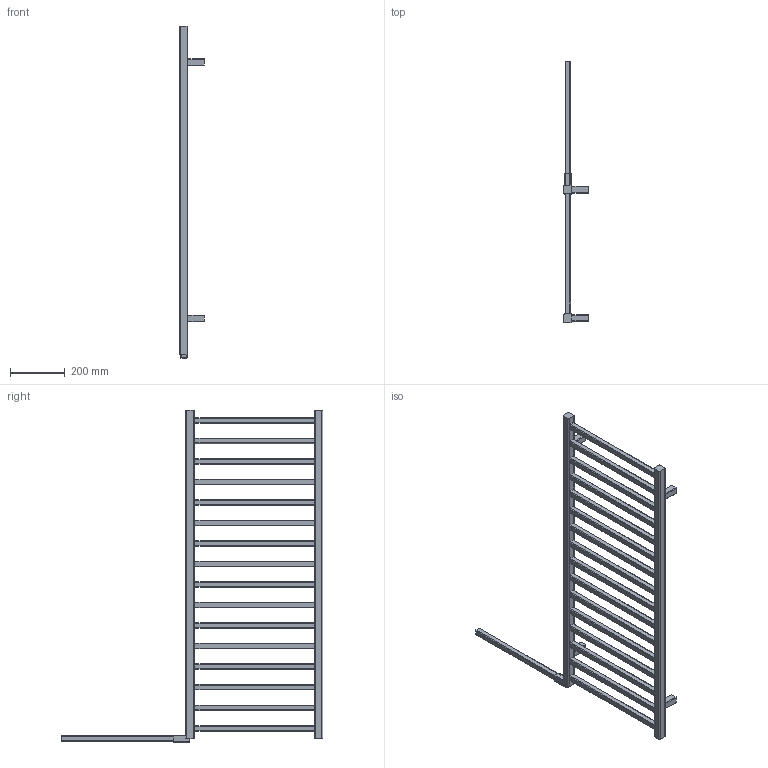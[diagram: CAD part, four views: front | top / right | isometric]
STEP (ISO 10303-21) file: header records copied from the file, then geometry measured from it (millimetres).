
FILE_DESCRIPTION( ( 'Unknown' ), '1' );
FILE_NAME( 'D:/Alplast sp. j/Witryna zespoBu - Projekty/Archiwum/Grzejniki Archiwum/Projekty/DESIGN PROGRAM/LIVIA/LIVIA 2.stp', 'Unknown', ( 'Unknown' ), ( 'Unknown' ), 'PSStep 10.1', 'Unknown', ' ' );
FILE_SCHEMA( ( 'AUTOMOTIVE_DESIGN { 1 0 10303 214 1 1 1 1 }' ) );
Length unit declared in the file: millimetre
Products named in the file (4): Assem1; kana³; uchwyt; kolektor LIVIA 2
Bounding box: 90 x 955 x 1212.5 mm (x, y, z)
Volume: 6279222.8 mm3; surface area: 1136846.2 mm2
Topology: 25 solids, 25 shells, 490 faces, 1176 edges, 784 vertices
Faces by surface type: plane 390, cylinder 100
Entity records: 4215 total; most frequent: CARTESIAN_POINT 573, DIRECTION 554, ORIENTED_EDGE 528, EDGE_CURVE 264, LINE 240, VECTOR 240, VERTEX_POINT 176, AXIS2_PLACEMENT_3D 157
